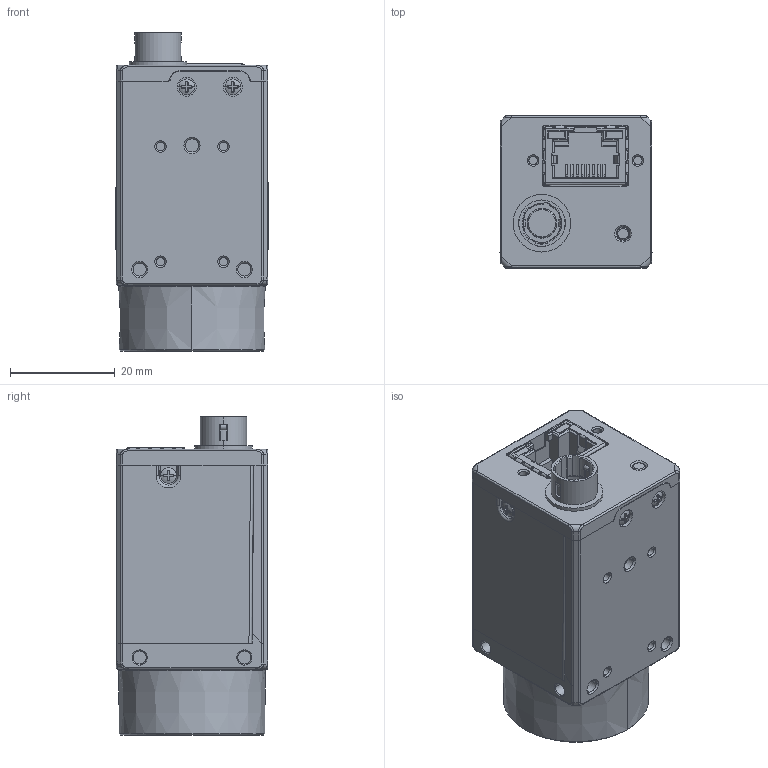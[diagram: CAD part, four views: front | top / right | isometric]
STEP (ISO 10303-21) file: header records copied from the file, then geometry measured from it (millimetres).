
FILE_DESCRIPTION((''),'2;1');
FILE_NAME('MV-CS060-10GMGC_ASM','2020-10-13T10:08:43',('sunli10'),(''),'CREO PARAMETRIC BY PTC INC, 2017260','CREO PARAMETRIC BY PTC INC, 2017260','');
FILE_SCHEMA(('CONFIG_CONTROL_DESIGN'));
Products named in the file (2): MSBR-1; MV-CS060-10GMGC_ASM
Assembly tree (1 placements, depth 2):
  MV-CS060-10GMGC_ASM
    MSBR-1
Bounding box: 29.03 x 29 x 60.78 mm (x, y, z)
Volume: 35748.5 mm3; surface area: 15864.5 mm2
Topology: 1 solids, 12 shells, 2096 faces, 5652 edges, 3554 vertices
Faces by surface type: plane 997, cylinder 495, bspline 250, cone 218, torus 117, sphere 19
Entity records: 82318 total; most frequent: CARTESIAN_POINT 31142, ORIENTED_EDGE 11296, DIRECTION 9889, EDGE_CURVE 5648, VERTEX_POINT 3554, AXIS2_PLACEMENT_3D 3347, VECTOR 3195, LINE 3195
